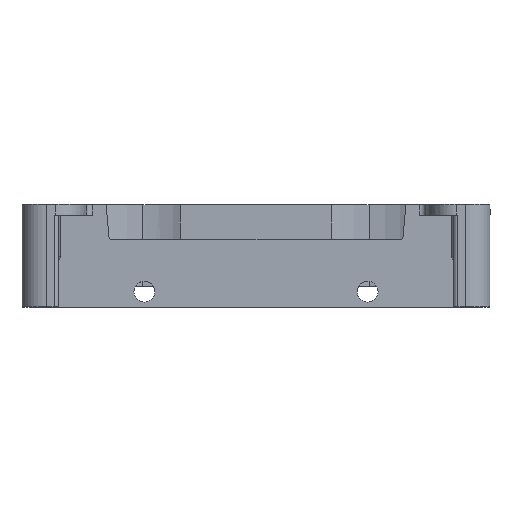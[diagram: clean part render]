
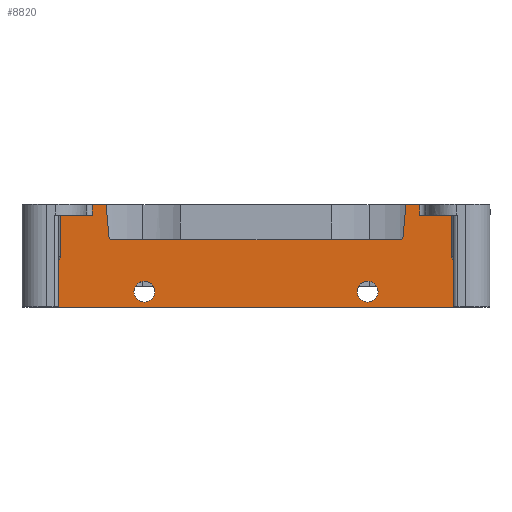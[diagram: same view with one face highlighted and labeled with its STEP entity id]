
A CAD part, top view. The second image highlights one B-rep face of the part: STEP entity #8820.
In plain terms, the highlighted planar face has unit normal (0, 0, 1).
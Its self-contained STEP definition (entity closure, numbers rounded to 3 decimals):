
#28 = AXIS2_PLACEMENT_3D ( 'NONE', #8602, #7662, #4986 ) ;
#36 = VERTEX_POINT ( 'NONE', #3260 ) ;
#137 = VERTEX_POINT ( 'NONE', #5742 ) ;
#172 = DIRECTION ( 'NONE',  ( 0., 0., 1. ) ) ;
#266 = CARTESIAN_POINT ( 'NONE',  ( -47.083, 23., 40. ) ) ;
#289 = DIRECTION ( 'NONE',  ( 1., 0., 0. ) ) ;
#300 = VECTOR ( 'NONE', #3424, 1000. ) ;
#347 = VECTOR ( 'NONE', #3480, 1000. ) ;
#349 = FACE_BOUND ( 'NONE', #3677, .T. ) ;
#413 = CARTESIAN_POINT ( 'NONE',  ( 47.083, 23., 40. ) ) ;
#440 = PLANE ( 'NONE',  #6885 ) ;
#481 = EDGE_CURVE ( 'NONE', #3289, #6798, #6206, .T. ) ;
#544 = CARTESIAN_POINT ( 'NONE',  ( -33.1, 5., 40. ) ) ;
#565 = CARTESIAN_POINT ( 'NONE',  ( -72., 0., 40. ) ) ;
#614 = AXIS2_PLACEMENT_3D ( 'NONE', #3672, #2491, #5349 ) ;
#642 = EDGE_CURVE ( 'NONE', #137, #3342, #1154, .T. ) ;
#666 = CARTESIAN_POINT ( 'NONE',  ( 47.083, 22., 40. ) ) ;
#734 = EDGE_CURVE ( 'NONE', #2209, #6798, #1286, .T. ) ;
#768 = CIRCLE ( 'NONE', #614, 3.4 ) ;
#787 = LINE ( 'NONE', #3696, #7307 ) ;
#818 = VERTEX_POINT ( 'NONE', #544 ) ;
#876 = CARTESIAN_POINT ( 'NONE',  ( -36.5, 5., 40. ) ) ;
#1065 = VERTEX_POINT ( 'NONE', #8949 ) ;
#1103 = VERTEX_POINT ( 'NONE', #6820 ) ;
#1154 = LINE ( 'NONE', #2482, #2655 ) ;
#1267 = CARTESIAN_POINT ( 'NONE',  ( 72., 0., 40. ) ) ;
#1286 = LINE ( 'NONE', #8568, #5351 ) ;
#1288 = LINE ( 'NONE', #8245, #1665 ) ;
#1450 = CARTESIAN_POINT ( 'NONE',  ( 72., 30., 40. ) ) ;
#1488 = VERTEX_POINT ( 'NONE', #1450 ) ;
#1511 = AXIS2_PLACEMENT_3D ( 'NONE', #266, #5102, #3129 ) ;
#1665 = VECTOR ( 'NONE', #4822, 1000. ) ;
#1753 = ORIENTED_EDGE ( 'NONE', *, *, #5877, .F. ) ;
#1770 = LINE ( 'NONE', #8243, #6019 ) ;
#1816 = CARTESIAN_POINT ( 'NONE',  ( -72., 0., 40. ) ) ;
#1842 = DIRECTION ( 'NONE',  ( 0., 0., 1. ) ) ;
#1870 = EDGE_CURVE ( 'NONE', #137, #1488, #787, .T. ) ;
#1960 = AXIS2_PLACEMENT_3D ( 'NONE', #876, #172, #8723 ) ;
#2032 = ORIENTED_EDGE ( 'NONE', *, *, #642, .T. ) ;
#2095 = CARTESIAN_POINT ( 'NONE',  ( -48., 22., 40. ) ) ;
#2105 = VECTOR ( 'NONE', #5826, 1000. ) ;
#2209 = VERTEX_POINT ( 'NONE', #6491 ) ;
#2448 = ORIENTED_EDGE ( 'NONE', *, *, #481, .T. ) ;
#2459 = VECTOR ( 'NONE', #289, 1000. ) ;
#2482 = CARTESIAN_POINT ( 'NONE',  ( 53.5, 33.5, 40. ) ) ;
#2491 = DIRECTION ( 'NONE',  ( 0., 0., 1. ) ) ;
#2505 = VERTEX_POINT ( 'NONE', #1267 ) ;
#2545 = DIRECTION ( 'NONE',  ( 1., 0., 0. ) ) ;
#2643 = DIRECTION ( 'NONE',  ( 0., -1., 0. ) ) ;
#2655 = VECTOR ( 'NONE', #7585, 1000. ) ;
#2726 = VECTOR ( 'NONE', #6414, 1000. ) ;
#2911 = EDGE_CURVE ( 'NONE', #4241, #36, #8583, .T. ) ;
#2916 = EDGE_LOOP ( 'NONE', ( #4465, #4214, #8561, #2032, #5501, #3653, #3053, #9137, #9260, #6204, #8638, #2448, #8018, #4577 ) ) ;
#2960 = AXIS2_PLACEMENT_3D ( 'NONE', #413, #9014, #8963 ) ;
#3009 = EDGE_CURVE ( 'NONE', #4241, #6952, #5366, .T. ) ;
#3053 = ORIENTED_EDGE ( 'NONE', *, *, #3009, .T. ) ;
#3129 = DIRECTION ( 'NONE',  ( -1., 0., 0. ) ) ;
#3212 = CARTESIAN_POINT ( 'NONE',  ( -53.5, 30., 40. ) ) ;
#3260 = CARTESIAN_POINT ( 'NONE',  ( 49., 33.5, 40. ) ) ;
#3284 = EDGE_CURVE ( 'NONE', #6132, #7526, #1288, .T. ) ;
#3289 = VERTEX_POINT ( 'NONE', #7678 ) ;
#3342 = VERTEX_POINT ( 'NONE', #4905 ) ;
#3424 = DIRECTION ( 'NONE',  ( 0., -1., 0. ) ) ;
#3431 = VERTEX_POINT ( 'NONE', #7053 ) ;
#3480 = DIRECTION ( 'NONE',  ( 1., 0., 0. ) ) ;
#3569 = LINE ( 'NONE', #4139, #347 ) ;
#3653 = ORIENTED_EDGE ( 'NONE', *, *, #2911, .F. ) ;
#3672 = CARTESIAN_POINT ( 'NONE',  ( 36.5, 5., 40. ) ) ;
#3677 = EDGE_LOOP ( 'NONE', ( #5511, #7342 ) ) ;
#3696 = CARTESIAN_POINT ( 'NONE',  ( 73., 30., 40. ) ) ;
#3705 = EDGE_CURVE ( 'NONE', #2505, #1488, #5681, .T. ) ;
#3914 = FACE_OUTER_BOUND ( 'NONE', #2916, .T. ) ;
#3957 = EDGE_CURVE ( 'NONE', #1103, #818, #5113, .T. ) ;
#3974 = CARTESIAN_POINT ( 'NONE',  ( 39.9, 5., 40. ) ) ;
#4139 = CARTESIAN_POINT ( 'NONE',  ( 55.5, 33.5, 40. ) ) ;
#4148 = VERTEX_POINT ( 'NONE', #1816 ) ;
#4203 = CIRCLE ( 'NONE', #1511, 1. ) ;
#4214 = ORIENTED_EDGE ( 'NONE', *, *, #3705, .T. ) ;
#4241 = VERTEX_POINT ( 'NONE', #8553 ) ;
#4311 = CARTESIAN_POINT ( 'NONE',  ( 72., 30., 40. ) ) ;
#4408 = DIRECTION ( 'NONE',  ( 0.087, 0.996, 0. ) ) ;
#4465 = ORIENTED_EDGE ( 'NONE', *, *, #5192, .T. ) ;
#4515 = EDGE_CURVE ( 'NONE', #2209, #4148, #9029, .T. ) ;
#4577 = ORIENTED_EDGE ( 'NONE', *, *, #4515, .T. ) ;
#4669 = DIRECTION ( 'NONE',  ( 0., 0., -1. ) ) ;
#4822 = DIRECTION ( 'NONE',  ( 0.087, -0.996, 0. ) ) ;
#4905 = CARTESIAN_POINT ( 'NONE',  ( 53.5, 33.5, 40. ) ) ;
#4984 = CIRCLE ( 'NONE', #28, 3.4 ) ;
#4986 = DIRECTION ( 'NONE',  ( 1., 0., 0. ) ) ;
#5054 = VECTOR ( 'NONE', #4408, 1000. ) ;
#5096 = EDGE_CURVE ( 'NONE', #3431, #7526, #4203, .T. ) ;
#5102 = DIRECTION ( 'NONE',  ( 0., 0., -1. ) ) ;
#5113 = CIRCLE ( 'NONE', #1960, 3.4 ) ;
#5192 = EDGE_CURVE ( 'NONE', #4148, #2505, #1770, .T. ) ;
#5349 = DIRECTION ( 'NONE',  ( 1., 0., 0. ) ) ;
#5351 = VECTOR ( 'NONE', #5663, 1000. ) ;
#5366 = CIRCLE ( 'NONE', #2960, 1. ) ;
#5451 = CIRCLE ( 'NONE', #8586, 3.4 ) ;
#5501 = ORIENTED_EDGE ( 'NONE', *, *, #6977, .F. ) ;
#5511 = ORIENTED_EDGE ( 'NONE', *, *, #7708, .F. ) ;
#5663 = DIRECTION ( 'NONE',  ( 1., 0., 0. ) ) ;
#5681 = LINE ( 'NONE', #4311, #2105 ) ;
#5742 = CARTESIAN_POINT ( 'NONE',  ( 53.5, 30., 40. ) ) ;
#5826 = DIRECTION ( 'NONE',  ( 0., 1., 0. ) ) ;
#5877 = EDGE_CURVE ( 'NONE', #8375, #1065, #768, .T. ) ;
#5985 = DIRECTION ( 'NONE',  ( -1., 0., 0. ) ) ;
#6019 = VECTOR ( 'NONE', #8334, 1000. ) ;
#6034 = CARTESIAN_POINT ( 'NONE',  ( 55.5, 33.5, 40. ) ) ;
#6132 = VERTEX_POINT ( 'NONE', #7158 ) ;
#6184 = EDGE_CURVE ( 'NONE', #3431, #6952, #7819, .T. ) ;
#6204 = ORIENTED_EDGE ( 'NONE', *, *, #3284, .F. ) ;
#6206 = LINE ( 'NONE', #9075, #8946 ) ;
#6250 = ORIENTED_EDGE ( 'NONE', *, *, #6861, .F. ) ;
#6414 = DIRECTION ( 'NONE',  ( 1., 0., 0. ) ) ;
#6491 = CARTESIAN_POINT ( 'NONE',  ( -72., 30., 40. ) ) ;
#6604 = DIRECTION ( 'NONE',  ( 1., 0., 0. ) ) ;
#6715 = CARTESIAN_POINT ( 'NONE',  ( 55.5, 33.5, 40. ) ) ;
#6798 = VERTEX_POINT ( 'NONE', #3212 ) ;
#6815 = FACE_BOUND ( 'NONE', #8377, .T. ) ;
#6820 = CARTESIAN_POINT ( 'NONE',  ( -39.9, 5., 40. ) ) ;
#6861 = EDGE_CURVE ( 'NONE', #1065, #8375, #4984, .T. ) ;
#6885 = AXIS2_PLACEMENT_3D ( 'NONE', #6034, #4669, #5985 ) ;
#6952 = VERTEX_POINT ( 'NONE', #666 ) ;
#6977 = EDGE_CURVE ( 'NONE', #36, #3342, #3569, .T. ) ;
#7053 = CARTESIAN_POINT ( 'NONE',  ( -47.083, 22., 40. ) ) ;
#7158 = CARTESIAN_POINT ( 'NONE',  ( -49., 33.5, 40. ) ) ;
#7307 = VECTOR ( 'NONE', #6604, 1000. ) ;
#7308 = CARTESIAN_POINT ( 'NONE',  ( 48., 22., 40. ) ) ;
#7342 = ORIENTED_EDGE ( 'NONE', *, *, #3957, .F. ) ;
#7469 = LINE ( 'NONE', #6715, #2459 ) ;
#7526 = VERTEX_POINT ( 'NONE', #8876 ) ;
#7585 = DIRECTION ( 'NONE',  ( 0., 1., 0. ) ) ;
#7662 = DIRECTION ( 'NONE',  ( 0., 0., 1. ) ) ;
#7678 = CARTESIAN_POINT ( 'NONE',  ( -53.5, 33.5, 40. ) ) ;
#7708 = EDGE_CURVE ( 'NONE', #818, #1103, #5451, .T. ) ;
#7776 = EDGE_CURVE ( 'NONE', #3289, #6132, #7469, .T. ) ;
#7819 = LINE ( 'NONE', #2095, #2726 ) ;
#8018 = ORIENTED_EDGE ( 'NONE', *, *, #734, .F. ) ;
#8243 = CARTESIAN_POINT ( 'NONE',  ( 55.5, 0., 40. ) ) ;
#8245 = CARTESIAN_POINT ( 'NONE',  ( -49., 33.5, 40. ) ) ;
#8334 = DIRECTION ( 'NONE',  ( 1., 0., 0. ) ) ;
#8375 = VERTEX_POINT ( 'NONE', #3974 ) ;
#8377 = EDGE_LOOP ( 'NONE', ( #1753, #6250 ) ) ;
#8553 = CARTESIAN_POINT ( 'NONE',  ( 48.079, 22.913, 40. ) ) ;
#8561 = ORIENTED_EDGE ( 'NONE', *, *, #1870, .F. ) ;
#8568 = CARTESIAN_POINT ( 'NONE',  ( -55.5, 30., 40. ) ) ;
#8583 = LINE ( 'NONE', #7308, #5054 ) ;
#8586 = AXIS2_PLACEMENT_3D ( 'NONE', #8981, #1842, #2545 ) ;
#8602 = CARTESIAN_POINT ( 'NONE',  ( 36.5, 5., 40. ) ) ;
#8638 = ORIENTED_EDGE ( 'NONE', *, *, #7776, .F. ) ;
#8723 = DIRECTION ( 'NONE',  ( 1., 0., 0. ) ) ;
#8820 = ADVANCED_FACE ( 'NONE', ( #6815, #349, #3914 ), #440, .F. ) ;
#8876 = CARTESIAN_POINT ( 'NONE',  ( -48.079, 22.913, 40. ) ) ;
#8946 = VECTOR ( 'NONE', #2643, 1000. ) ;
#8949 = CARTESIAN_POINT ( 'NONE',  ( 33.1, 5., 40. ) ) ;
#8963 = DIRECTION ( 'NONE',  ( -1., 0., 0. ) ) ;
#8981 = CARTESIAN_POINT ( 'NONE',  ( -36.5, 5., 40. ) ) ;
#9014 = DIRECTION ( 'NONE',  ( 0., 0., -1. ) ) ;
#9029 = LINE ( 'NONE', #565, #300 ) ;
#9075 = CARTESIAN_POINT ( 'NONE',  ( -53.5, 30., 40. ) ) ;
#9137 = ORIENTED_EDGE ( 'NONE', *, *, #6184, .F. ) ;
#9260 = ORIENTED_EDGE ( 'NONE', *, *, #5096, .T. ) ;
